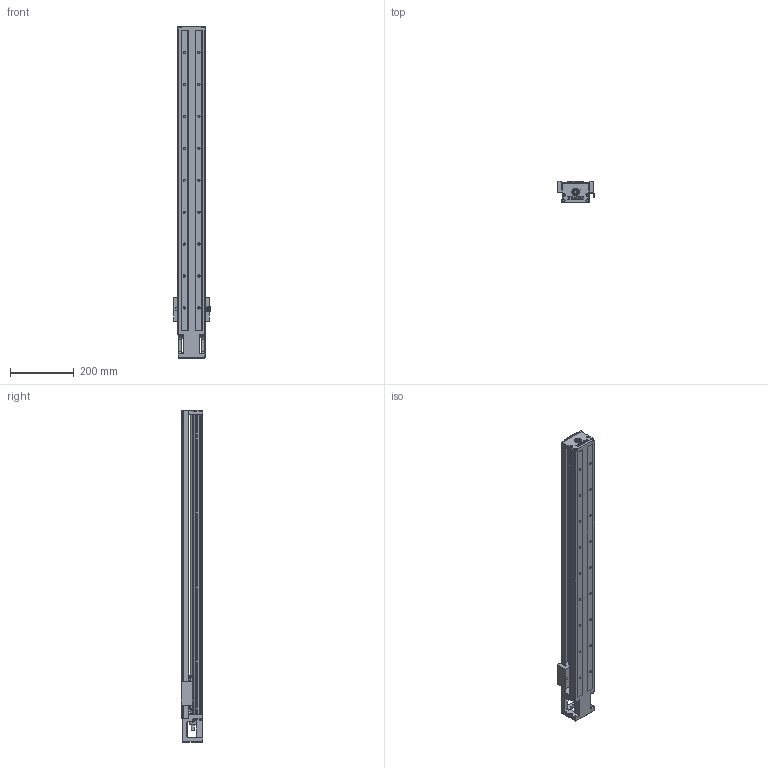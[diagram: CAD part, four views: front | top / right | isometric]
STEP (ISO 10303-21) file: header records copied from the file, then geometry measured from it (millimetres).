
FILE_DESCRIPTION (( 'STEP AP214' ), '1' );
FILE_NAME ('7.0125 KT8620C-940A1-F0C.STEP', '2026-03-17T12:31:41', ( '' ), ( '' ), 'SwSTEP 2.0', 'SolidWorks 2025', '' );
FILE_SCHEMA (( 'AUTOMOTIVE_DESIGN' ));
Length unit declared in the file: millimetre
Products named in the file (4): KT86-A1-C; 7.0125 KT8620C-940A1-F0C; KT86-K0_KKR86-ZT-P-940; KT86-CU_940
Assembly tree (3 placements, depth 2):
  7.0125 KT8620C-940A1-F0C
    KT86-K0_KKR86-ZT-P-940
    KT86-A1-C
    KT86-CU_940
Bounding box: 114.7 x 68 x 1040.2 mm (x, y, z)
Volume: 2274715.9 mm3; surface area: 729280.4 mm2
Topology: 27 solids, 27 shells, 1774 faces, 4602 edges, 2873 vertices
Faces by surface type: plane 825, cylinder 617, cone 232, torus 59, sphere 24, bspline 17
Entity records: 71504 total; most frequent: CARTESIAN_POINT 12061, DIRECTION 9307, ORIENTED_EDGE 8976, EDGE_CURVE 4488, AXIS2_PLACEMENT_3D 3288, VERTEX_POINT 2873, VECTOR 2731, LINE 2731
